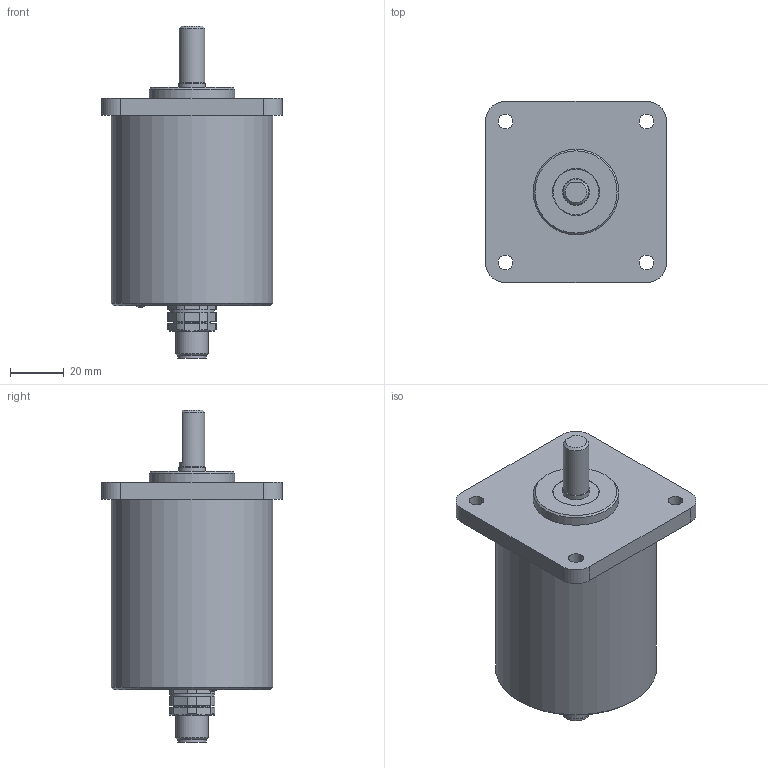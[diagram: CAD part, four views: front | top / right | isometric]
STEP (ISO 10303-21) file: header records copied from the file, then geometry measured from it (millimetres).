
FILE_DESCRIPTION(/* description */ ('Alibre Inc.'),/* implementation_level */ '2;1');
FILE_NAME(/* name */ 'export0',/* time_stamp */ '2016-10-21T14:12:12-04:00',/* author */ (''),/* organization */ (''),/* preprocessor_version */ 'ST-DEVELOPER v14',/* originating_system */ 'Alibre',/* authorisation */ '');
FILE_SCHEMA (('CONFIG_CONTROL_DESIGN'));
Length unit declared in the file: centimetre
Products named in the file (1): ID_1
Bounding box: 67.31 x 67.31 x 123.47 mm (x, y, z)
Volume: 144626.5 mm3; surface area: 44500.3 mm2
Topology: 3 solids, 44 shells, 283 faces, 480 edges, 315 vertices
Faces by surface type: plane 149, cylinder 105, cone 25, bspline 3, torus 1
Full cylindrical faces by diameter (mm): 1.4 x8, 2.87 x2, 3 x37, 5.5 x4, 8.3 x1, 9.5 x1, 9.9 x2, 10 x3, 10.5 x1, 11.8 x1, 12 x1, 13.5 x2, 14 x1, 15.2 x1, 16.5 x1, 17 x1, 20 x1, 26 x1, 31.75 x1, 40 x1, 46 x1, 55.8 x1, 60 x1
Entity records: 6030 total; most frequent: CARTESIAN_POINT 1115, DIRECTION 974, ORIENTED_EDGE 748, AXIS2_PLACEMENT_3D 488, EDGE_LOOP 424, FACE_BOUND 424, EDGE_CURVE 374, VERTEX_POINT 304
